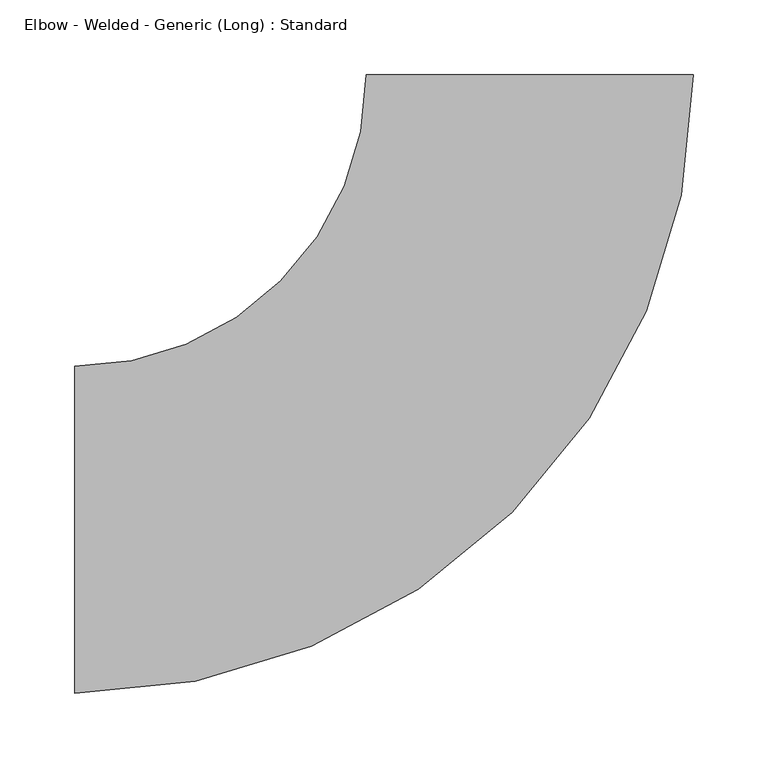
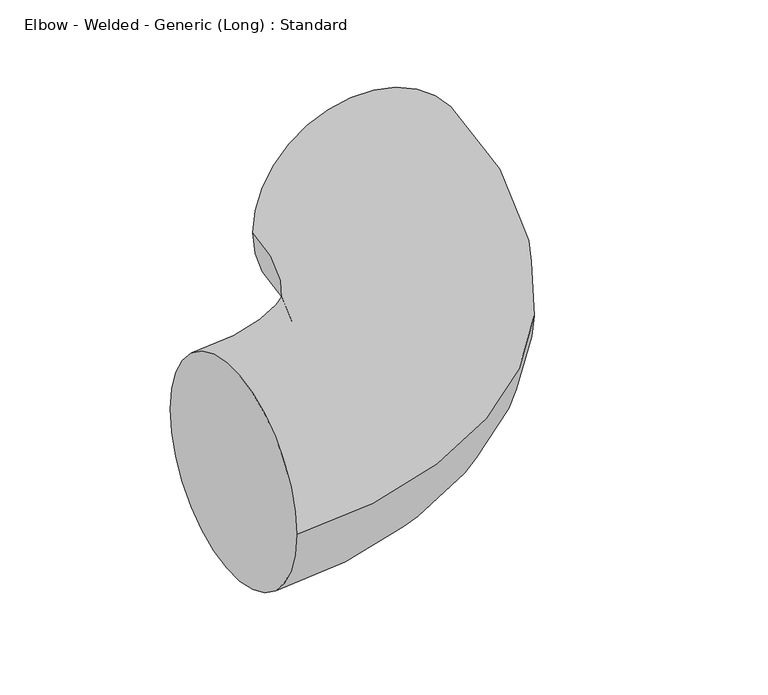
"""IFC4 building model written with IfcOpenShell, lengths in millimetres: pipe fitting geometry, Elbow - Welded - Generic (Long) : Standard."""

from ifc_helpers import new_model, si_unit, point, frame, origin, place, context, project, spatial, circle_curve, ellipse_curve, trimmed, source, transform, mapped, element, save
from ifc_brep_helpers import plane_surface, revolved_surface, advanced_brep


def elbow_welded_generic_long_standard_9c12b809(model_context):
    return source(origin(), model_context, "Body", "AdvancedBrep", [
        advanced_brep(
        [(-304.8, -109.5375, 0.0), (-304.8, 109.5375, 0.0), (109.6286876, 304.7672141, 0.0), (-109.4463026, 304.8327587, 0.0)],
        [
            (0, 1, circle_curve(frame((-304.8, 0.0, 0.0), z_axis=(-1.0, 0.0, 0.0), x_axis=(0.0, 1.0, 0.0)), 109.5375)),
            (1, 0, circle_curve(frame((-304.8, 0.0, 0.0), z_axis=(-1.0, 0.0, 0.0), x_axis=(0.0, 1.0, 0.0)), 109.5375)),
            (2, 3, circle_curve(frame((0.0911925, 304.7999864, 0.0), z_axis=(0.0002991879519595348, 0.9999999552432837, 0.0), x_axis=(-0.9999999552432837, 0.0002991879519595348, 0.0)), 109.5375)),
            (3, 2, circle_curve(frame((0.0911925, 304.7999864, 0.0), z_axis=(0.0002991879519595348, 0.9999999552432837, 0.0), x_axis=(-0.9999999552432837, 0.0002991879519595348, 0.0)), 109.5375)),
            (3, 1, circle_curve(frame((-304.8, 304.8912061, 0.0), z_axis=(0.0, 0.0, -1.0), x_axis=(0.0, -1.0, 0.0)), 195.3537061)),
            (0, 2, circle_curve(frame((-304.8, 304.8912061, 0.0), z_axis=(0.0, 0.0, 1.0), x_axis=(0.0, -1.0, 0.0)), 414.4287061)),
        ],
        [
            plane_surface(frame((-304.8, 0.0, 0.0), z_axis=(-1.0, 0.0, 0.0), x_axis=(0.0, 0.0, 1.0))),
            plane_surface(frame((0.0911925, 304.7999864, 0.0), z_axis=(0.00029918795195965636, 0.9999999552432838, 0.0), x_axis=(0.0, 0.0, 1.0))),
            revolved_surface(trimmed(ellipse_curve(frame((-304.8, 0.0, 0.0), z_axis=(-1.0, 0.0, 0.0), x_axis=(0.0, 1.0, 0.0)), 109.5375, 109.5375), [point((-304.8, -109.5375, 0.0))], [point((-304.8, 109.5375, 0.0))], True, "CARTESIAN"), (-304.8, 304.8912061, 0.0), (0.0, 0.0, 1.0)),
            revolved_surface(trimmed(ellipse_curve(frame((-304.8, 0.0, 0.0), z_axis=(-1.0, 0.0, 0.0), x_axis=(0.0, 1.0, 0.0)), 109.5375, 109.5375), [point((-304.8, 109.5375, 0.0))], [point((-304.8, -109.5375, 0.0))], True, "CARTESIAN"), (-304.8, 304.8912061, 0.0), (0.0, 0.0, 1.0)),
        ],
        [
            (0, [[1, 2]]),
            (1, [[3, 4]]),
            (2, [[5, -1, 6, -4]]),
            (3, [[-6, -2, -5, -3]]),
        ],
    ),
    ])


if __name__ == "__main__":
    model = new_model("IFC4")
    model_context = context("Model", 3, world=origin())
    ifc_project = project(units=[si_unit("LENGTHUNIT", "METRE", prefix="MILLI")], contexts=[model_context])
    site = spatial("IfcSite", under=ifc_project)
    building = spatial("IfcBuilding", under=site)
    placement = place(None, origin())
    elbow_welded_generic_long_standard_shape = elbow_welded_generic_long_standard_9c12b809(model_context)
    element("IfcPipeFitting", 1, ObjectType="Elbow - Welded - Generic (Long) : Standard", at=placement, inside=building, context=model_context, shape_type="MappedRepresentation", body=[
        mapped(elbow_welded_generic_long_standard_shape, transform((0.0, 0.0, 0.0), x_axis=(1.0, 0.0, 0.0), y_axis=(0.0, 1.0, 0.0), z_axis=(0.0, 0.0, 1.0))),
    ])
    save(model, "model.ifc")
